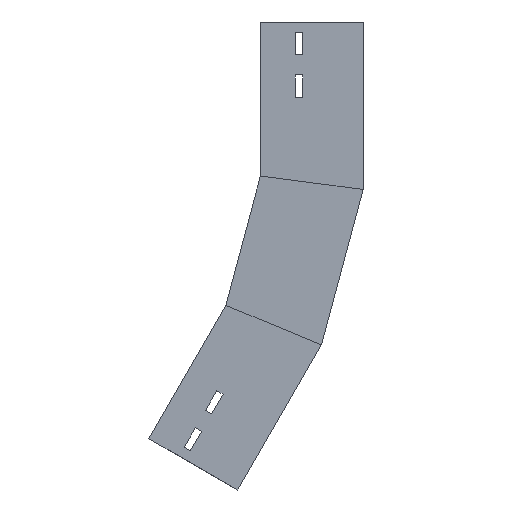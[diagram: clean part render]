
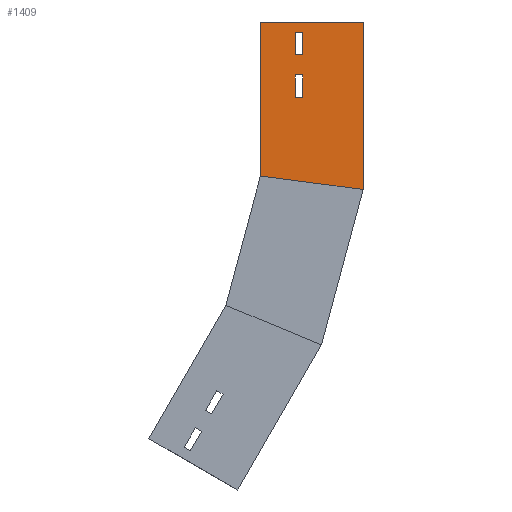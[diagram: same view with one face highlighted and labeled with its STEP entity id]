
A CAD part, left-side view. The second image highlights one B-rep face of the part: STEP entity #1409.
In plain terms, the highlighted planar face has unit normal (-1, 0, 0) as drawn and (1, 0, 0) by its records, which use the part's own axes.
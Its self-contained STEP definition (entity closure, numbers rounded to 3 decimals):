
#15 = VECTOR ( 'NONE', #435, 1000. ) ;
#21 = VERTEX_POINT ( 'NONE', #537 ) ;
#32 = LINE ( 'NONE', #485, #887 ) ;
#43 = CARTESIAN_POINT ( 'NONE',  ( 0., 133.716, -275.665 ) ) ;
#48 = VECTOR ( 'NONE', #1274, 1000. ) ;
#75 = CARTESIAN_POINT ( 'NONE',  ( 0., 168.209, -417.409 ) ) ;
#78 = DIRECTION ( 'NONE',  ( 0., -0.5, 0.866 ) ) ;
#79 = EDGE_CURVE ( 'NONE', #227, #1202, #1045, .T. ) ;
#110 = LINE ( 'NONE', #1030, #15 ) ;
#112 = VECTOR ( 'NONE', #1090, 1000. ) ;
#205 = DIRECTION ( 'NONE',  ( 0., -0.5, 0.866 ) ) ;
#213 = EDGE_CURVE ( 'NONE', #318, #599, #32, .T. ) ;
#217 = EDGE_LOOP ( 'NONE', ( #603, #1387, #1235, #724 ) ) ;
#227 = VERTEX_POINT ( 'NONE', #43 ) ;
#241 = ORIENTED_EDGE ( 'NONE', *, *, #452, .F. ) ;
#246 = DIRECTION ( 'NONE',  ( -1., 0., 0. ) ) ;
#251 = CARTESIAN_POINT ( 'NONE',  ( 0., 153.436, -377.821 ) ) ;
#266 = LINE ( 'NONE', #972, #877 ) ;
#292 = DIRECTION ( 'NONE',  ( 0., 0.5, -0.866 ) ) ;
#299 = CARTESIAN_POINT ( 'NONE',  ( 0., 147.374, -381.321 ) ) ;
#304 = LINE ( 'NONE', #642, #1001 ) ;
#305 = EDGE_CURVE ( 'NONE', #420, #821, #731, .T. ) ;
#306 = CARTESIAN_POINT ( 'NONE',  ( 0., 40.531, -314.264 ) ) ;
#310 = CARTESIAN_POINT ( 'NONE',  ( 0., 40.531, -314.264 ) ) ;
#313 = VECTOR ( 'NONE', #205, 1000. ) ;
#318 = VERTEX_POINT ( 'NONE', #299 ) ;
#344 = VECTOR ( 'NONE', #541, 1000. ) ;
#356 = EDGE_CURVE ( 'NONE', #664, #503, #1448, .T. ) ;
#372 = VECTOR ( 'NONE', #1391, 1000. ) ;
#376 = DIRECTION ( 'NONE',  ( 0., 0.866, 0.5 ) ) ;
#388 = CARTESIAN_POINT ( 'NONE',  ( 0., 122.031, -455.426 ) ) ;
#394 = EDGE_CURVE ( 'NONE', #1460, #420, #266, .T. ) ;
#409 = CARTESIAN_POINT ( 'NONE',  ( 0., 163.271, -394.856 ) ) ;
#416 = LINE ( 'NONE', #535, #372 ) ;
#420 = VERTEX_POINT ( 'NONE', #609 ) ;
#429 = LINE ( 'NONE', #306, #487 ) ;
#435 = DIRECTION ( 'NONE',  ( 0., -0.866, -0.5 ) ) ;
#452 = EDGE_CURVE ( 'NONE', #21, #1460, #416, .T. ) ;
#484 = CARTESIAN_POINT ( 'NONE',  ( 0., 142.436, -358.769 ) ) ;
#485 = CARTESIAN_POINT ( 'NONE',  ( 0., 153.436, -377.821 ) ) ;
#487 = VECTOR ( 'NONE', #1000, 1000. ) ;
#497 = EDGE_LOOP ( 'NONE', ( #1053, #241, #1446, #650 ) ) ;
#503 = VERTEX_POINT ( 'NONE', #1126 ) ;
#535 = CARTESIAN_POINT ( 'NONE',  ( 0., 174.271, -413.909 ) ) ;
#537 = CARTESIAN_POINT ( 'NONE',  ( 0., 168.209, -417.409 ) ) ;
#541 = DIRECTION ( 'NONE',  ( 0., 0.5, -0.866 ) ) ;
#560 = VECTOR ( 'NONE', #1310, 1000. ) ;
#579 = LINE ( 'NONE', #930, #313 ) ;
#594 = DIRECTION ( 'NONE',  ( 0., 0., 1. ) ) ;
#599 = VERTEX_POINT ( 'NONE', #251 ) ;
#603 = ORIENTED_EDGE ( 'NONE', *, *, #79, .T. ) ;
#609 = CARTESIAN_POINT ( 'NONE',  ( 0., 163.271, -394.856 ) ) ;
#619 = VERTEX_POINT ( 'NONE', #484 ) ;
#620 = LINE ( 'NONE', #735, #1116 ) ;
#642 = CARTESIAN_POINT ( 'NONE',  ( 0., 147.374, -381.321 ) ) ;
#650 = ORIENTED_EDGE ( 'NONE', *, *, #305, .F. ) ;
#664 = VERTEX_POINT ( 'NONE', #1050 ) ;
#674 = EDGE_CURVE ( 'NONE', #1202, #664, #429, .T. ) ;
#711 = ORIENTED_EDGE ( 'NONE', *, *, #213, .F. ) ;
#724 = ORIENTED_EDGE ( 'NONE', *, *, #1153, .F. ) ;
#726 = AXIS2_PLACEMENT_3D ( 'NONE', #1412, #246, #594 ) ;
#731 = LINE ( 'NONE', #409, #560 ) ;
#735 = CARTESIAN_POINT ( 'NONE',  ( 0., 127.134, -264.264 ) ) ;
#749 = CARTESIAN_POINT ( 'NONE',  ( 0., 174.271, -413.909 ) ) ;
#770 = ORIENTED_EDGE ( 'NONE', *, *, #931, .F. ) ;
#813 = EDGE_CURVE ( 'NONE', #821, #21, #1447, .T. ) ;
#821 = VERTEX_POINT ( 'NONE', #1399 ) ;
#877 = VECTOR ( 'NONE', #78, 1000. ) ;
#887 = VECTOR ( 'NONE', #376, 1000. ) ;
#930 = CARTESIAN_POINT ( 'NONE',  ( 0., 153.436, -377.821 ) ) ;
#931 = EDGE_CURVE ( 'NONE', #599, #619, #579, .T. ) ;
#948 = CARTESIAN_POINT ( 'NONE',  ( 0., 59.416, -306.442 ) ) ;
#972 = CARTESIAN_POINT ( 'NONE',  ( 0., 174.271, -413.909 ) ) ;
#1000 = DIRECTION ( 'NONE',  ( 0., 0.5, -0.866 ) ) ;
#1001 = VECTOR ( 'NONE', #1108, 1000. ) ;
#1024 = ORIENTED_EDGE ( 'NONE', *, *, #1197, .F. ) ;
#1030 = CARTESIAN_POINT ( 'NONE',  ( 0., 142.436, -358.769 ) ) ;
#1045 = LINE ( 'NONE', #948, #48 ) ;
#1050 = CARTESIAN_POINT ( 'NONE',  ( 0., 122.031, -455.426 ) ) ;
#1053 = ORIENTED_EDGE ( 'NONE', *, *, #394, .F. ) ;
#1066 = FACE_BOUND ( 'NONE', #1225, .T. ) ;
#1090 = DIRECTION ( 'NONE',  ( 0., 0.866, 0.5 ) ) ;
#1108 = DIRECTION ( 'NONE',  ( 0., 0.5, -0.866 ) ) ;
#1116 = VECTOR ( 'NONE', #292, 1000. ) ;
#1126 = CARTESIAN_POINT ( 'NONE',  ( 0., 208.634, -405.426 ) ) ;
#1153 = EDGE_CURVE ( 'NONE', #227, #503, #620, .T. ) ;
#1178 = FACE_BOUND ( 'NONE', #497, .T. ) ;
#1197 = EDGE_CURVE ( 'NONE', #1237, #318, #304, .T. ) ;
#1202 = VERTEX_POINT ( 'NONE', #310 ) ;
#1225 = EDGE_LOOP ( 'NONE', ( #770, #711, #1024, #1333 ) ) ;
#1235 = ORIENTED_EDGE ( 'NONE', *, *, #356, .T. ) ;
#1237 = VERTEX_POINT ( 'NONE', #1363 ) ;
#1274 = DIRECTION ( 'NONE',  ( 0., -0.924, -0.383 ) ) ;
#1275 = PLANE ( 'NONE',  #726 ) ;
#1297 = EDGE_CURVE ( 'NONE', #619, #1237, #110, .T. ) ;
#1310 = DIRECTION ( 'NONE',  ( 0., -0.866, -0.5 ) ) ;
#1333 = ORIENTED_EDGE ( 'NONE', *, *, #1297, .F. ) ;
#1363 = CARTESIAN_POINT ( 'NONE',  ( 0., 136.374, -362.269 ) ) ;
#1387 = ORIENTED_EDGE ( 'NONE', *, *, #674, .T. ) ;
#1391 = DIRECTION ( 'NONE',  ( 0., 0.866, 0.5 ) ) ;
#1399 = CARTESIAN_POINT ( 'NONE',  ( 0., 157.209, -398.356 ) ) ;
#1409 = ADVANCED_FACE ( 'NONE', ( #1178, #1066, #1420 ), #1275, .F. ) ;
#1412 = CARTESIAN_POINT ( 'NONE',  ( 0., 40.531, -314.264 ) ) ;
#1420 = FACE_OUTER_BOUND ( 'NONE', #217, .T. ) ;
#1446 = ORIENTED_EDGE ( 'NONE', *, *, #813, .F. ) ;
#1447 = LINE ( 'NONE', #75, #344 ) ;
#1448 = LINE ( 'NONE', #388, #112 ) ;
#1460 = VERTEX_POINT ( 'NONE', #749 ) ;
